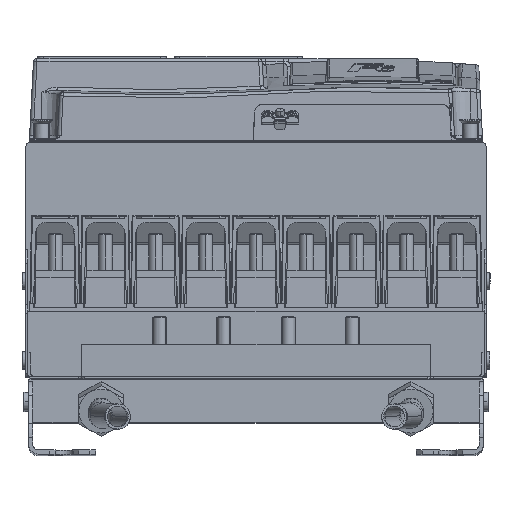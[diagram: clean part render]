
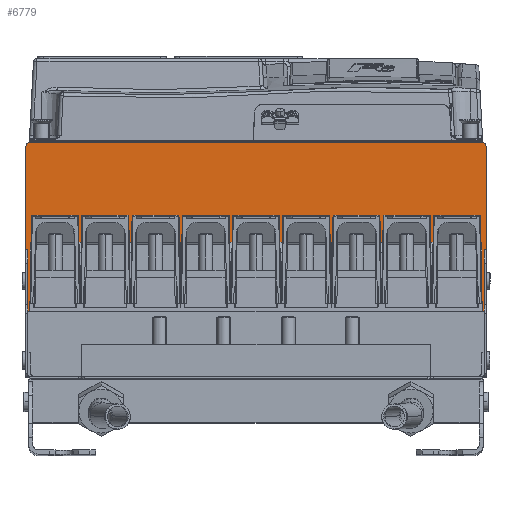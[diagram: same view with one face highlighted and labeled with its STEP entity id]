
A CAD part, top view. The second image highlights one B-rep face of the part: STEP entity #6779.
In plain terms, the highlighted planar face has unit normal (0, 0, 1).
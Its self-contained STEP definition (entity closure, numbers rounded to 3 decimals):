
#356 = DIRECTION ( 'NONE',  ( 1., 0., 0. ) ) ;
#2014 = CARTESIAN_POINT ( 'NONE',  ( 163.5, 0., 453. ) ) ;
#6557 = EDGE_CURVE ( 'NONE', #29026, #96962, #98452, .T. ) ;
#6731 = CARTESIAN_POINT ( 'NONE',  ( -163.5, -77., 453. ) ) ;
#6779 = ADVANCED_FACE ( 'NONE', ( #87523 ), #25857, .F. ) ;
#8475 = CARTESIAN_POINT ( 'NONE',  ( 161.5, -3.5, 453. ) ) ;
#8562 = VERTEX_POINT ( 'NONE', #74567 ) ;
#9656 = EDGE_CURVE ( 'NONE', #62884, #105950, #46883, .T. ) ;
#11210 = EDGE_CURVE ( 'NONE', #8562, #26798, #92825, .T. ) ;
#13278 = CARTESIAN_POINT ( 'NONE',  ( -161.5, -3.5, 453. ) ) ;
#13408 = LINE ( 'NONE', #48235, #80689 ) ;
#14368 = VECTOR ( 'NONE', #59705, 1000. ) ;
#15887 = VERTEX_POINT ( 'NONE', #6731 ) ;
#16854 = VERTEX_POINT ( 'NONE', #33252 ) ;
#17422 = LINE ( 'NONE', #93429, #14368 ) ;
#17663 = EDGE_CURVE ( 'NONE', #96962, #62884, #73271, .T. ) ;
#19204 = ORIENTED_EDGE ( 'NONE', *, *, #82715, .F. ) ;
#20803 = CARTESIAN_POINT ( 'NONE',  ( 165.001, -77., 453. ) ) ;
#21505 = VECTOR ( 'NONE', #43808, 1000. ) ;
#22376 = DIRECTION ( 'NONE',  ( 0., 1., 0. ) ) ;
#25857 = PLANE ( 'NONE',  #89836 ) ;
#26035 = CARTESIAN_POINT ( 'NONE',  ( -165., -77., 453. ) ) ;
#26798 = VERTEX_POINT ( 'NONE', #50468 ) ;
#29026 = VERTEX_POINT ( 'NONE', #45097 ) ;
#29077 = LINE ( 'NONE', #72476, #43212 ) ;
#29531 = VECTOR ( 'NONE', #38498, 1000. ) ;
#30873 = DIRECTION ( 'NONE',  ( -1., 0., 0. ) ) ;
#33252 = CARTESIAN_POINT ( 'NONE',  ( -161.5, 0., 453. ) ) ;
#36463 = ORIENTED_EDGE ( 'NONE', *, *, #44639, .T. ) ;
#37476 = LINE ( 'NONE', #87194, #21505 ) ;
#38498 = DIRECTION ( 'NONE',  ( -1., 0., 0. ) ) ;
#41261 = ORIENTED_EDGE ( 'NONE', *, *, #11210, .F. ) ;
#42416 = CARTESIAN_POINT ( 'NONE',  ( 163.5, -77., 453. ) ) ;
#43212 = VECTOR ( 'NONE', #55357, 1000. ) ;
#43808 = DIRECTION ( 'NONE',  ( 0., 1., 0. ) ) ;
#44639 = EDGE_CURVE ( 'NONE', #67737, #15887, #13408, .T. ) ;
#45097 = CARTESIAN_POINT ( 'NONE',  ( 165., -77., 453. ) ) ;
#46883 = LINE ( 'NONE', #109099, #66689 ) ;
#48235 = CARTESIAN_POINT ( 'NONE',  ( -165.001, -77., 453. ) ) ;
#49720 = EDGE_LOOP ( 'NONE', ( #52061, #66604, #36463, #69856, #98585, #75692, #53884, #90162, #41261, #19204 ) ) ;
#50468 = CARTESIAN_POINT ( 'NONE',  ( 165., -3.5, 453. ) ) ;
#51707 = CIRCLE ( 'NONE', #80897, 3.5 ) ;
#52061 = ORIENTED_EDGE ( 'NONE', *, *, #68305, .F. ) ;
#53884 = ORIENTED_EDGE ( 'NONE', *, *, #6557, .F. ) ;
#55357 = DIRECTION ( 'NONE',  ( 0., -1., 0. ) ) ;
#57719 = EDGE_CURVE ( 'NONE', #99385, #67737, #29077, .T. ) ;
#58635 = EDGE_CURVE ( 'NONE', #105950, #15887, #37476, .T. ) ;
#58688 = LINE ( 'NONE', #96153, #88970 ) ;
#59705 = DIRECTION ( 'NONE',  ( 0., 1., 0. ) ) ;
#59855 = EDGE_CURVE ( 'NONE', #29026, #26798, #17422, .T. ) ;
#60707 = DIRECTION ( 'NONE',  ( 0., 0., -1. ) ) ;
#62884 = VERTEX_POINT ( 'NONE', #110180 ) ;
#64703 = DIRECTION ( 'NONE',  ( 0., -1., 0. ) ) ;
#66604 = ORIENTED_EDGE ( 'NONE', *, *, #57719, .T. ) ;
#66689 = VECTOR ( 'NONE', #30873, 1000. ) ;
#67737 = VERTEX_POINT ( 'NONE', #26035 ) ;
#68305 = EDGE_CURVE ( 'NONE', #99385, #16854, #51707, .T. ) ;
#69856 = ORIENTED_EDGE ( 'NONE', *, *, #58635, .F. ) ;
#72476 = CARTESIAN_POINT ( 'NONE',  ( -165., -3.5, 453. ) ) ;
#73271 = LINE ( 'NONE', #2014, #95530 ) ;
#74567 = CARTESIAN_POINT ( 'NONE',  ( 161.5, 0., 453. ) ) ;
#75692 = ORIENTED_EDGE ( 'NONE', *, *, #17663, .F. ) ;
#76981 = DIRECTION ( 'NONE',  ( 0., 0., -1. ) ) ;
#77817 = DIRECTION ( 'NONE',  ( 0., 1., 0. ) ) ;
#80689 = VECTOR ( 'NONE', #83053, 1000. ) ;
#80897 = AXIS2_PLACEMENT_3D ( 'NONE', #13278, #100629, #22376 ) ;
#82715 = EDGE_CURVE ( 'NONE', #16854, #8562, #58688, .T. ) ;
#83053 = DIRECTION ( 'NONE',  ( 1., 0., 0. ) ) ;
#84993 = DIRECTION ( 'NONE',  ( 0., 1., 0. ) ) ;
#86385 = CARTESIAN_POINT ( 'NONE',  ( 0., 0., 453. ) ) ;
#87194 = CARTESIAN_POINT ( 'NONE',  ( -163.5, 0., 453. ) ) ;
#87523 = FACE_OUTER_BOUND ( 'NONE', #49720, .T. ) ;
#88970 = VECTOR ( 'NONE', #356, 1000. ) ;
#89836 = AXIS2_PLACEMENT_3D ( 'NONE', #86385, #60707, #77817 ) ;
#90162 = ORIENTED_EDGE ( 'NONE', *, *, #59855, .T. ) ;
#90769 = CARTESIAN_POINT ( 'NONE',  ( -163.5, -167.9, 453. ) ) ;
#92825 = CIRCLE ( 'NONE', #98253, 3.5 ) ;
#93429 = CARTESIAN_POINT ( 'NONE',  ( 165., -3.5, 453. ) ) ;
#95530 = VECTOR ( 'NONE', #64703, 1000. ) ;
#96153 = CARTESIAN_POINT ( 'NONE',  ( 0., 0., 453. ) ) ;
#96962 = VERTEX_POINT ( 'NONE', #42416 ) ;
#98253 = AXIS2_PLACEMENT_3D ( 'NONE', #8475, #76981, #84993 ) ;
#98452 = LINE ( 'NONE', #20803, #29531 ) ;
#98585 = ORIENTED_EDGE ( 'NONE', *, *, #9656, .F. ) ;
#99385 = VERTEX_POINT ( 'NONE', #100036 ) ;
#100036 = CARTESIAN_POINT ( 'NONE',  ( -165., -3.5, 453. ) ) ;
#100629 = DIRECTION ( 'NONE',  ( 0., 0., -1. ) ) ;
#105950 = VERTEX_POINT ( 'NONE', #90769 ) ;
#109099 = CARTESIAN_POINT ( 'NONE',  ( 0., -167.9, 453. ) ) ;
#110180 = CARTESIAN_POINT ( 'NONE',  ( 163.5, -167.9, 453. ) ) ;
